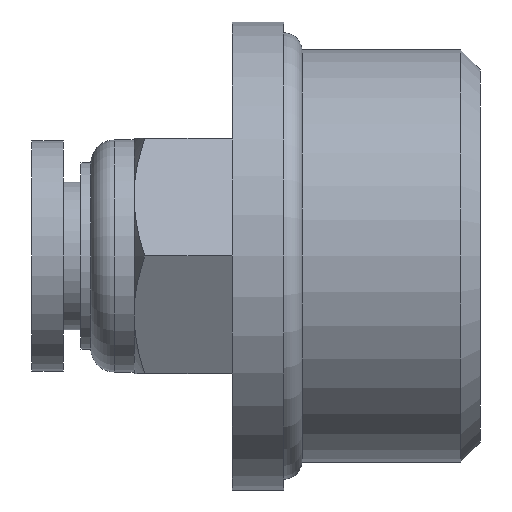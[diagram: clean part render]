
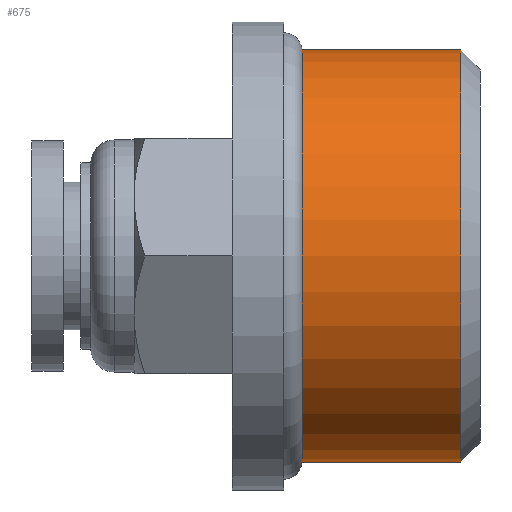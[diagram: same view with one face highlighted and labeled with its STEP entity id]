
A CAD part, left-side view. The second image highlights one B-rep face of the part: STEP entity #675.
In plain terms, the highlighted cylindrical face has radius 10.477 mm (diameter 20.955 mm), a full revolution.
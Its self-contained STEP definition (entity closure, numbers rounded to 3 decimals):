
#73=CYLINDRICAL_SURFACE('',#755,10.478);
#87=FACE_OUTER_BOUND('',#129,.T.);
#129=EDGE_LOOP('',(#493,#494,#495,#496,#497,#498));
#172=LINE('',#1067,#208);
#208=VECTOR('',#876,10.478);
#256=CIRCLE('',#753,10.478);
#257=CIRCLE('',#754,10.478);
#258=CIRCLE('',#756,10.478);
#259=CIRCLE('',#757,10.478);
#297=VERTEX_POINT('',#1060);
#298=VERTEX_POINT('',#1062);
#299=VERTEX_POINT('',#1066);
#300=VERTEX_POINT('',#1068);
#374=EDGE_CURVE('',#297,#298,#256,.T.);
#375=EDGE_CURVE('',#298,#297,#257,.T.);
#376=EDGE_CURVE('',#298,#299,#172,.T.);
#377=EDGE_CURVE('',#299,#300,#258,.T.);
#378=EDGE_CURVE('',#300,#299,#259,.T.);
#493=ORIENTED_EDGE('',*,*,#374,.F.);
#494=ORIENTED_EDGE('',*,*,#375,.F.);
#495=ORIENTED_EDGE('',*,*,#376,.T.);
#496=ORIENTED_EDGE('',*,*,#377,.T.);
#497=ORIENTED_EDGE('',*,*,#378,.T.);
#498=ORIENTED_EDGE('',*,*,#376,.F.);
#675=ADVANCED_FACE('',(#87),#73,.T.);
#753=AXIS2_PLACEMENT_3D('',#1063,#870,#871);
#754=AXIS2_PLACEMENT_3D('',#1064,#872,#873);
#755=AXIS2_PLACEMENT_3D('',#1065,#874,#875);
#756=AXIS2_PLACEMENT_3D('',#1069,#877,#878);
#757=AXIS2_PLACEMENT_3D('',#1070,#879,#880);
#870=DIRECTION('center_axis',(0.,-1.,0.));
#871=DIRECTION('ref_axis',(-1.,0.,0.));
#872=DIRECTION('center_axis',(0.,-1.,0.));
#873=DIRECTION('ref_axis',(-1.,0.,0.));
#874=DIRECTION('center_axis',(0.,-1.,0.));
#875=DIRECTION('ref_axis',(1.,0.,0.));
#876=DIRECTION('',(0.,1.,0.));
#877=DIRECTION('center_axis',(0.,-1.,0.));
#878=DIRECTION('ref_axis',(1.,0.,0.));
#879=DIRECTION('center_axis',(0.,-1.,0.));
#880=DIRECTION('ref_axis',(1.,0.,0.));
#1060=CARTESIAN_POINT('',(10.478,1.,0.));
#1062=CARTESIAN_POINT('',(-10.478,1.,0.));
#1063=CARTESIAN_POINT('Origin',(0.,1.,0.));
#1064=CARTESIAN_POINT('Origin',(0.,1.,0.));
#1065=CARTESIAN_POINT('Origin',(0.,5.,0.));
#1066=CARTESIAN_POINT('',(-10.478,9.053,0.));
#1067=CARTESIAN_POINT('',(-10.478,5.,0.));
#1068=CARTESIAN_POINT('',(0.,9.053,10.478));
#1069=CARTESIAN_POINT('Origin',(0.,9.053,0.));
#1070=CARTESIAN_POINT('Origin',(0.,9.053,0.));
